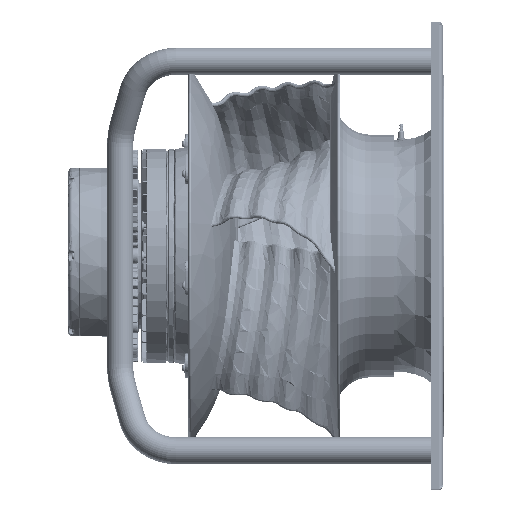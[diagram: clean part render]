
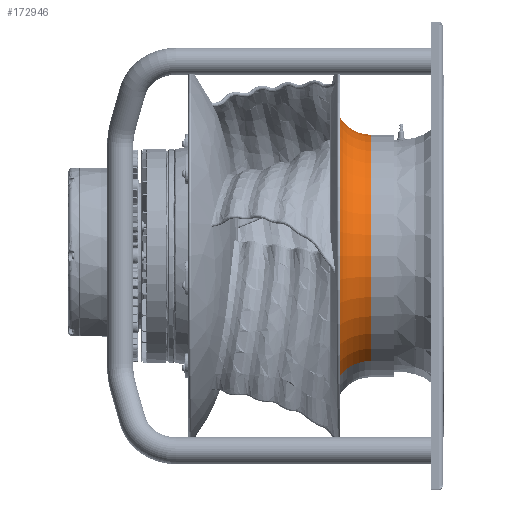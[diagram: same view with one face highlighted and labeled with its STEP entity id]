
A CAD part, top view. The second image highlights one B-rep face of the part: STEP entity #172946.
In plain terms, the highlighted toroidal (fillet/blend) face has major radius 203.435 mm and minor radius 47.785 mm.
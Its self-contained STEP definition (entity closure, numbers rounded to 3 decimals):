
#21327=CARTESIAN_POINT('',(201.999,0.,0.));
#21328=DIRECTION('',(1.,0.,0.));
#21329=DIRECTION('',(0.,0.866,-0.5));
#21330=AXIS2_PLACEMENT_3D('',#21327,#21328,#21329);
#21714=CARTESIAN_POINT('',(249.075,0.,0.));
#21715=DIRECTION('',(1.,0.,0.));
#21716=DIRECTION('',(0.,0.866,-0.5));
#21717=AXIS2_PLACEMENT_3D('',#21714,#21715,#21716);
#21719=CARTESIAN_POINT('',(249.075,176.18,
-101.717));
#21720=DIRECTION('',(0.,-0.5,-0.866));
#21721=DIRECTION('',(0.,-0.866,0.5));
#21722=AXIS2_PLACEMENT_3D('',#21719,#21720,#21721);
#21724=CARTESIAN_POINT('',(249.075,-176.18,
101.717));
#21725=DIRECTION('',(0.,0.5,0.866));
#21726=DIRECTION('',(0.,0.866,-0.5));
#21727=AXIS2_PLACEMENT_3D('',#21724,#21725,#21726);
#127238=CARTESIAN_POINT('',(249.075,134.797,-77.825));
#127239=CARTESIAN_POINT('',(201.999,183.28,
-105.817));
#127240=VERTEX_POINT('',#127238);
#127241=VERTEX_POINT('',#127239);
#127258=CARTESIAN_POINT('',(249.075,-134.797,77.825));
#127259=CARTESIAN_POINT('',(201.999,-183.28,
105.817));
#127260=VERTEX_POINT('',#127258);
#127261=VERTEX_POINT('',#127259);
#172932=CARTESIAN_POINT('',(249.075,0.,0.));
#172933=DIRECTION('',(1.,0.,0.));
#172934=DIRECTION('',(0.,-0.866,0.5));
#172935=AXIS2_PLACEMENT_3D('',#172932,#172933,#172934);
#172936=TOROIDAL_SURFACE('',#172935,203.435,47.785);
#172938=ORIENTED_EDGE('',*,*,#172937,.F.);
#172940=ORIENTED_EDGE('',*,*,#172939,.T.);
#172942=ORIENTED_EDGE('',*,*,#172941,.T.);
#172943=ORIENTED_EDGE('',*,*,#172792,.F.);
#172944=EDGE_LOOP('',(#172938,#172940,#172942,#172943));
#172945=FACE_OUTER_BOUND('',#172944,.F.);
#21331=CIRCLE('',#21330,211.633);
#21718=CIRCLE('',#21717,155.65);
#21723=CIRCLE('',#21722,47.785);
#21728=CIRCLE('',#21727,47.785);
#172792=EDGE_CURVE('',#127241,#127261,#21331,.T.);
#172937=EDGE_CURVE('',#127240,#127241,#21723,.T.);
#172939=EDGE_CURVE('',#127240,#127260,#21718,.T.);
#172941=EDGE_CURVE('',#127260,#127261,#21728,.T.);
#172946=ADVANCED_FACE('',(#172945),#172936,.F.);
